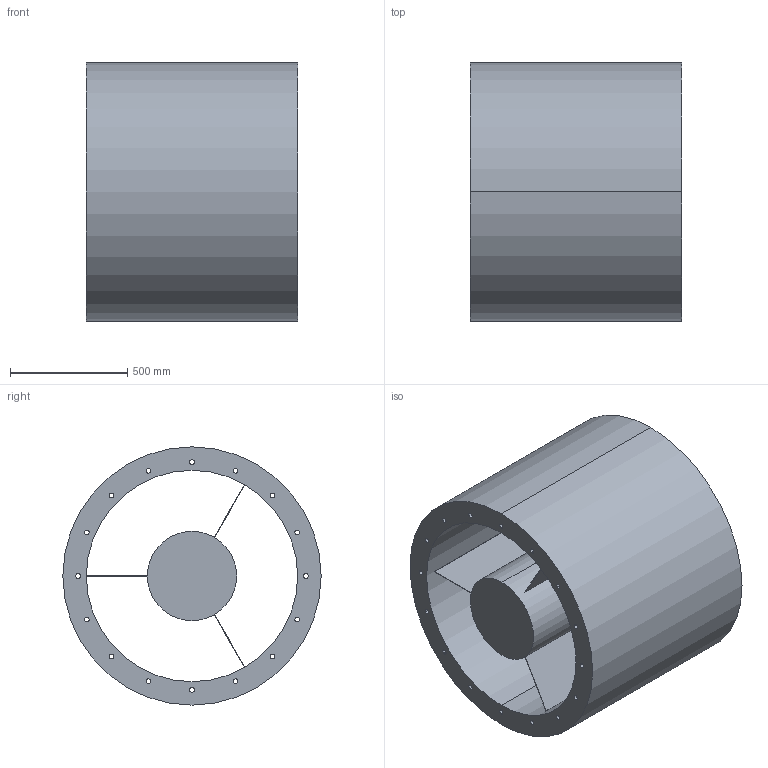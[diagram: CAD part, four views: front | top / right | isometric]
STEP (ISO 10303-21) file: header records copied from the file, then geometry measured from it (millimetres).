
FILE_DESCRIPTION(('STEP AP214'),'1');
FILE_NAME('accessory_5211815600.stp','2017-10-09T11:38:32',('TraceParts'),('TraceParts S.A.'),'Spatial InterOp 3D',' ',' ');
FILE_SCHEMA(('automotive_design'));
Length unit declared in the file: millimetre
Products named in the file (1): accessory_5211815600
Bounding box: 900 x 1100 x 1100 mm (x, y, z)
Volume: 368773177.9 mm3; surface area: 9272838.6 mm2
Topology: 1 solids, 1 shells, 56 faces, 155 edges, 103 vertices
Faces by surface type: cylinder 38, plane 16, torus 2
Entity records: 2384 total; most frequent: DIRECTION 362, CARTESIAN_POINT 315, ORIENTED_EDGE 310, EDGE_CURVE 155, AXIS2_PLACEMENT_3D 150, VERTEX_POINT 103, EDGE_LOOP 96, CIRCLE 93
